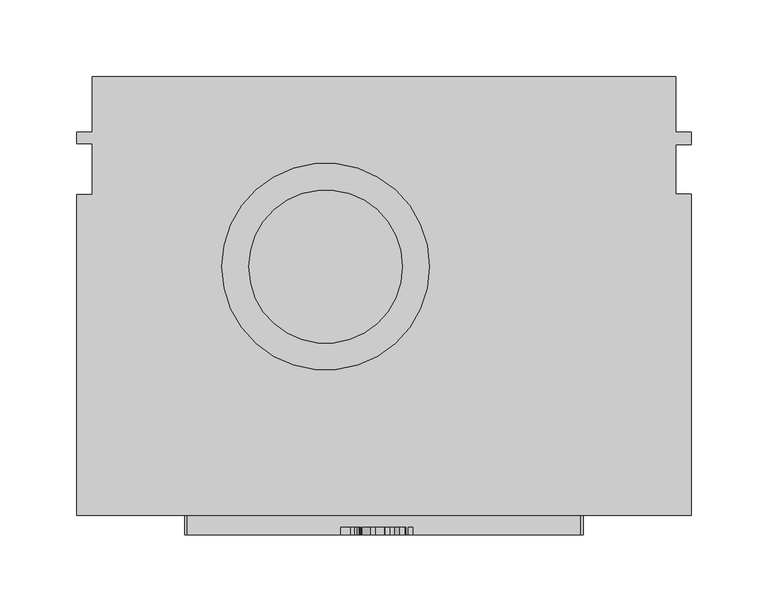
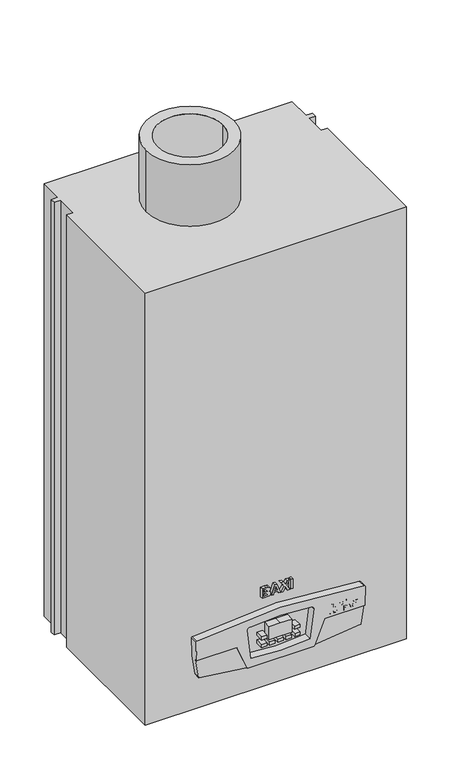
"""IFC4 building model written with IfcOpenShell, lengths in millimetres: proxy geometry, BAXI_ГазовыйКотел_Duo_tec_Compact_1.24 : BAXI_Газовый котел_Duo-tec_Compact_1.24_GA."""

from ifc_helpers import new_model, si_unit, point, frame, frame_2d, origin, origin_with_axes, place, context, project, spatial, polyline, circle_curve, trimmed, segment, composite_curve, outline, extrude, faceted_brep, source, transform, mapped, element, save
from ifc_brep_helpers import plane_surface, cylinder_surface, revolved_surface, advanced_brep


def mechanical_equipment_8a4b9af9(model_context):
    return source(origin(), model_context, "Body", "SolidModel", [
        extrude(outline(composite_curve([segment(trimmed(circle_curve(frame_2d((-65.0, -105.0)), 7.5), [point((-72.5, -105.0))], [point((-57.5, -105.0))], False, "CARTESIAN"), True, "CONTINUOUS"), segment(trimmed(circle_curve(frame_2d((-65.0, -105.0)), 7.5), [point((-57.5, -105.0))], [point((-72.5, -105.0))], False, "CARTESIAN"), True, "CONTINUOUS")], self_intersect=False)), origin_with_axes(), (0.0, 0.0, 1.0), 22.0),
        extrude(outline(polyline([(190.0, -0.5), (190.0, -36.6752899), (200.0, -36.6752899), (200.0, -44.656828), (190.0, -44.656828), (190.0, -76.999666), (200.0, -76.999666), (200.0, -286.1681724), (-200.0, -286.1681724), (-200.0, -77.3721844), (-190.0, -77.3721844), (-190.0, -44.0), (-200.0, -44.0), (-200.0, -36.6752899), (-190.0, -36.6752899), (-190.0, -0.5), (190.0, -0.5)])), origin_with_axes(), (0.0, 0.0, 1.0), 700.0),
        extrude(outline(composite_curve([segment(trimmed(circle_curve(frame_2d((-38.0, -124.25)), 67.5), [point((-105.5, -124.25))], [point((29.5, -124.25))], False, "CARTESIAN"), True, "CONTINUOUS"), segment(trimmed(circle_curve(frame_2d((-38.0, -124.25)), 67.5), [point((29.5, -124.25))], [point((-105.5, -124.25))], False, "CARTESIAN"), True, "CONTINUOUS")], self_intersect=False), holes=[composite_curve([segment(trimmed(circle_curve(frame_2d((-38.0, -124.25)), 50.0), [point((-88.0, -124.25))], [point((12.0, -124.25))], True, "CARTESIAN"), True, "CONTINUOUS"), segment(trimmed(circle_curve(frame_2d((-38.0, -124.25)), 50.0), [point((12.0, -124.25))], [point((-88.0, -124.25))], True, "CARTESIAN"), True, "CONTINUOUS")], self_intersect=False)]), frame((0.0, 0.0, 700.0), z_axis=(0.0, 0.0, 1.0), x_axis=(1.0, 0.0, 0.0)), (0.0, 0.0, 1.0), 100.0),
        extrude(outline(composite_curve([segment(trimmed(circle_curve(frame_2d((-130.0, -105.0)), 10.0), [point((-140.0, -105.0))], [point((-120.0, -105.0))], False, "CARTESIAN"), True, "CONTINUOUS"), segment(trimmed(circle_curve(frame_2d((-130.0, -105.0)), 10.0), [point((-120.0, -105.0))], [point((-140.0, -105.0))], False, "CARTESIAN"), True, "CONTINUOUS")], self_intersect=False)), origin_with_axes(), (0.0, 0.0, 1.0), 22.0),
        extrude(outline(composite_curve([segment(trimmed(circle_curve(frame_2d((0.0, -162.0)), 10.0), [point((-10.0, -162.0))], [point((10.0, -162.0))], False, "CARTESIAN"), True, "CONTINUOUS"), segment(trimmed(circle_curve(frame_2d((0.0, -162.0)), 10.0), [point((10.0, -162.0))], [point((-10.0, -162.0))], False, "CARTESIAN"), True, "CONTINUOUS")], self_intersect=False)), origin_with_axes(), (0.0, 0.0, 1.0), 22.0),
        extrude(outline(composite_curve([segment(trimmed(circle_curve(frame_2d((65.0, -105.0)), 7.5), [point((57.5, -105.0))], [point((72.5, -105.0))], False, "CARTESIAN"), True, "CONTINUOUS"), segment(trimmed(circle_curve(frame_2d((65.0, -105.0)), 7.5), [point((72.5, -105.0))], [point((57.5, -105.0))], False, "CARTESIAN"), True, "CONTINUOUS")], self_intersect=False)), origin_with_axes(), (0.0, 0.0, 1.0), 22.0),
        extrude(outline(composite_curve([segment(trimmed(circle_curve(frame_2d((130.0, -105.0)), 10.0), [point((120.0, -105.0))], [point((140.0, -105.0))], False, "CARTESIAN"), True, "CONTINUOUS"), segment(trimmed(circle_curve(frame_2d((130.0, -105.0)), 10.0), [point((140.0, -105.0))], [point((120.0, -105.0))], False, "CARTESIAN"), True, "CONTINUOUS")], self_intersect=False)), origin_with_axes(), (0.0, 0.0, 1.0), 22.0),
        extrude(outline(composite_curve([segment(trimmed(circle_curve(frame_2d((-160.0, -74.7759442)), 10.5), [point((-170.5, -74.7759442))], [point((-149.5, -74.7759442))], False, "CARTESIAN"), True, "CONTINUOUS"), segment(trimmed(circle_curve(frame_2d((-160.0, -74.7759442)), 10.5), [point((-149.5, -74.7759442))], [point((-170.5, -74.7759442))], False, "CARTESIAN"), True, "CONTINUOUS")], self_intersect=False)), origin_with_axes(), (0.0, 0.0, 1.0), 22.0),
        advanced_brep(
        [(-128.1028502, -299.0, 118.9007879), (-129.6477737, -299.0, 117.9319304), (-128.8084094, -299.0, 87.6513571), (-68.5287013, -299.0, 87.6513571), (-66.8402087, -299.0, 86.7610551), (-51.3248688, -299.0, 49.248306), (-50.8513874, -299.0, 48.0756191), (51.1143045, -299.0, 48.0940337), (51.4911202, -299.0, 49.135039), (66.909802, -299.0, 86.6492986), (68.4946002, -299.0, 87.4596466), (128.7917959, -299.0, 87.4596466), (129.6482494, -299.0, 117.9315691), (128.1028471, -299.0, 118.900748), (45.1546201, -299.0, 62.6878272), (-45.1447575, -299.0, 62.6864766), (-50.8321027, -299.0, 109.006186), (-46.1105772, -299.0, 112.9848533), (46.8170771, -299.0, 112.8908542), (50.8230971, -299.0, 108.853868), (-128.1028502, -286.5590296, 118.9007879), (128.1028471, -286.5590296, 118.900748), (129.6482494, -286.5590296, 117.9315691), (124.2366381, -286.5590296, 57.371656), (123.6920546, -286.5590296, 56.8270726), (-123.6926113, -286.5590296, 56.8269918), (-124.2369655, -286.5590296, 57.3753448), (-129.6477737, -286.5590296, 117.9319304), (45.1546201, -286.5590296, 62.6878272), (50.8230971, -286.5590296, 108.853868), (46.8170771, -286.5590296, 112.8908542), (-46.1105772, -286.5590296, 112.9848533), (-50.8321027, -286.5590296, 109.006186), (-45.1447575, -286.5590296, 62.6864766), (-123.6926113, -296.8843387, 56.8269918), (-124.2369655, -296.8843387, 57.3753448), (123.6920546, -296.8843387, 56.8270726), (51.1143045, -296.8843387, 48.0940337), (-50.8513874, -296.8843387, 48.0756191), (124.2366381, -296.8843387, 57.371656), (-128.8084094, -296.8843387, 87.6513571), (128.7917959, -296.8843387, 87.4596466), (-51.3248688, -296.8843387, 49.248306), (-66.8402087, -296.8843387, 86.7610551), (-68.5287013, -296.8843387, 87.6513571), (68.4946002, -296.8843387, 87.4596466), (66.909802, -296.8843387, 86.6492986), (51.4911202, -296.8843387, 49.135039)],
        [
            (0, 1, circle_curve(frame((-128.1028502, -299.0, 117.1846051), z_axis=(0.0, -1.0, 0.0), x_axis=(0.0, 0.0, 1.0)), 1.7161828)),
            (1, 2, circle_curve(frame((119.706062, -299.0, 109.6919897), z_axis=(0.0, -1.0, 0.0), x_axis=(0.0, 0.0, 1.0)), 249.4899437)),
            (2, 3),
            (3, 4, circle_curve(frame((-68.5287013, -299.0, 85.60506), z_axis=(0.0, 1.0, 0.0), x_axis=(1.0, 0.0, 0.0)), 2.0462971)),
            (4, 5),
            (5, 6, circle_curve(frame((-46.0275788, -299.0, 50.7051986), z_axis=(0.0, -1.0, 0.0), x_axis=(1.0, 0.0, 0.0)), 5.4939801)),
            (6, 7, circle_curve(frame((-0.0005141, -299.0, 778.8472695), z_axis=(0.0, -1.0, 0.0), x_axis=(0.0, 0.0, 1.0)), 732.5387473)),
            (7, 8, circle_curve(frame((46.0280159, -299.0, 50.5238335), z_axis=(0.0, -1.0, 0.0), x_axis=(1.0, 0.0, 0.0)), 5.636866)),
            (8, 9),
            (9, 10, circle_curve(frame((68.4946002, -299.0, 85.504777), z_axis=(0.0, 1.0, 0.0), x_axis=(1.0, 0.0, 0.0)), 1.9548696)),
            (10, 11),
            (11, 12, circle_curve(frame((-119.7055983, -299.0, 109.6919897), z_axis=(0.0, -1.0, 0.0), x_axis=(0.0, 0.0, 1.0)), 249.4899437)),
            (12, 13, circle_curve(frame((128.1028471, -299.0, 117.1840496), z_axis=(0.0, -1.0, 0.0), x_axis=(0.0, 0.0, 1.0)), 1.7166984)),
            (13, 0, circle_curve(frame((-0.0001294, -299.0, -702.5991104), z_axis=(0.0, -1.0, 0.0), x_axis=(0.0, 0.0, 1.0)), 831.4279223)),
            (14, 15, circle_curve(frame((0.0002319, -299.0, 376.8900603), z_axis=(0.0, 1.0, 0.0), x_axis=(0.0, 0.0, 1.0)), 317.4302476)),
            (15, 16),
            (16, 17, circle_curve(frame((-46.7949968, -299.0, 109.006186), z_axis=(0.0, 1.0, 0.0), x_axis=(0.0, 0.0, 1.0)), 4.0371059)),
            (17, 18, circle_curve(frame((0.0002319, -299.0, -236.0561817), z_axis=(0.0, 1.0, 0.0), x_axis=(0.0, 0.0, 1.0)), 352.0736441)),
            (18, 19, circle_curve(frame((46.7859912, -299.0, 108.853868), z_axis=(0.0, 1.0, 0.0), x_axis=(0.0, 0.0, 1.0)), 4.0371059)),
            (19, 14),
            (20, 21, circle_curve(frame((-0.0001294, -286.5590296, -702.5991104), z_axis=(0.0, 1.0, 0.0), x_axis=(0.0, 0.0, 1.0)), 831.4279223)),
            (21, 22, circle_curve(frame((128.1028471, -286.5590296, 117.1840496), z_axis=(0.0, 1.0, 0.0), x_axis=(0.0, 0.0, 1.0)), 1.7166984)),
            (22, 23, circle_curve(frame((-119.7055983, -286.5590296, 109.6919897), z_axis=(0.0, 1.0, 0.0), x_axis=(0.0, 0.0, 1.0)), 249.4899437)),
            (23, 24, circle_curve(frame((123.6920546, -286.5590296, 57.371656), z_axis=(0.0, 1.0, 0.0), x_axis=(0.0, 0.0, 1.0)), 0.5445835)),
            (24, 25, circle_curve(frame((-0.0005141, -286.5590296, 778.8472695), z_axis=(0.0, 1.0, 0.0), x_axis=(0.0, 0.0, 1.0)), 732.5387473)),
            (25, 26, circle_curve(frame((-123.6926113, -286.5590296, 57.3713605), z_axis=(0.0, 1.0, 0.0), x_axis=(0.0, 0.0, 1.0)), 0.5443687)),
            (26, 27, circle_curve(frame((119.706062, -286.5590296, 109.6919897), z_axis=(0.0, 1.0, 0.0), x_axis=(0.0, 0.0, 1.0)), 249.4899437)),
            (27, 20, circle_curve(frame((-128.1028502, -286.5590296, 117.1846051), z_axis=(0.0, 1.0, 0.0), x_axis=(0.0, 0.0, 1.0)), 1.7161828)),
            (28, 29),
            (29, 30, circle_curve(frame((46.7859912, -286.5590296, 108.853868), z_axis=(0.0, -1.0, 0.0), x_axis=(0.0, 0.0, 1.0)), 4.0371059)),
            (30, 31, circle_curve(frame((0.0002319, -286.5590296, -236.0561817), z_axis=(0.0, -1.0, 0.0), x_axis=(0.0, 0.0, 1.0)), 352.0736441)),
            (31, 32, circle_curve(frame((-46.7949968, -286.5590296, 109.006186), z_axis=(0.0, -1.0, 0.0), x_axis=(0.0, 0.0, 1.0)), 4.0371059)),
            (32, 33),
            (33, 28, circle_curve(frame((0.0002319, -286.5590296, 376.8900603), z_axis=(0.0, -1.0, 0.0), x_axis=(0.0, 0.0, 1.0)), 317.4302476)),
            (25, 34),
            (34, 35, circle_curve(frame((-123.6926113, -296.8843387, 57.3713605), z_axis=(0.0, 1.0, 0.0), x_axis=(0.0, 0.0, 1.0)), 0.5443687)),
            (35, 26),
            (24, 36),
            (36, 37, circle_curve(frame((-0.0005141, -296.8843387, 778.8472695), z_axis=(0.0, 1.0, 0.0), x_axis=(0.0, 0.0, 1.0)), 732.5387473)),
            (37, 7),
            (6, 38),
            (38, 34, circle_curve(frame((-0.0005141, -296.8843387, 778.8472695), z_axis=(0.0, 1.0, 0.0), x_axis=(0.0, 0.0, 1.0)), 732.5387473)),
            (23, 39),
            (39, 36, circle_curve(frame((123.6920546, -296.8843387, 57.371656), z_axis=(0.0, 1.0, 0.0), x_axis=(0.0, 0.0, 1.0)), 0.5445835)),
            (12, 22),
            (21, 13),
            (20, 0),
            (27, 1),
            (18, 30),
            (29, 19),
            (28, 14),
            (15, 33),
            (32, 16),
            (31, 17),
            (35, 40, circle_curve(frame((119.706062, -296.8843387, 109.6919897), z_axis=(0.0, 1.0, 0.0), x_axis=(0.0, 0.0, 1.0)), 249.4899437)),
            (40, 2),
            (11, 41),
            (41, 39, circle_curve(frame((-119.7055983, -296.8843387, 109.6919897), z_axis=(0.0, 1.0, 0.0), x_axis=(0.0, 0.0, 1.0)), 249.4899437)),
            (42, 43),
            (43, 44, circle_curve(frame((-68.5287013, -296.8843387, 85.60506), z_axis=(0.0, -1.0, 0.0), x_axis=(1.0, 0.0, 0.0)), 2.0462971)),
            (44, 40),
            (38, 42, circle_curve(frame((-46.0275788, -296.8843387, 50.7051986), z_axis=(0.0, 1.0, 0.0), x_axis=(1.0, 0.0, 0.0)), 5.4939801)),
            (45, 46, circle_curve(frame((68.4946002, -296.8843387, 85.504777), z_axis=(0.0, -1.0, 0.0), x_axis=(1.0, 0.0, 0.0)), 1.9548696)),
            (46, 47),
            (47, 37, circle_curve(frame((46.0280159, -296.8843387, 50.5238335), z_axis=(0.0, 1.0, 0.0), x_axis=(1.0, 0.0, 0.0)), 5.636866)),
            (41, 45),
            (44, 3),
            (42, 5),
            (4, 43),
            (45, 10),
            (9, 46),
            (8, 47),
        ],
        [
            plane_surface(frame((-128.1028502, -299.0, 118.9007879), z_axis=(0.0, -1.0, 0.0), x_axis=(-1.0, 0.0, 0.0))),
            plane_surface(frame((-128.1028502, -286.5590296, 118.9007879), z_axis=(0.0, 1.0, 0.0), x_axis=(1.0, 0.0, 0.0))),
            cylinder_surface(frame((-123.6926113, -286.5590296, 57.3713605), z_axis=(0.0, -1.0, 0.0), x_axis=(0.0, 0.0, 1.0)), 0.5443687),
            cylinder_surface(frame((-0.0005141, -286.5590296, 778.8472695), z_axis=(0.0, -1.0, 0.0), x_axis=(0.0, 0.0, 1.0)), 732.5387473),
            cylinder_surface(frame((123.6920546, -286.5590296, 57.371656), z_axis=(0.0, -1.0, 0.0), x_axis=(0.0, 0.0, 1.0)), 0.5445835),
            cylinder_surface(frame((128.1028471, -286.5590296, 117.1840496), z_axis=(0.0, -1.0, 0.0), x_axis=(0.0, 0.0, 1.0)), 1.7166984),
            cylinder_surface(frame((-0.0001294, -286.5590296, -702.5991104), z_axis=(0.0, -1.0, 0.0), x_axis=(0.0, 0.0, 1.0)), 831.4279223),
            cylinder_surface(frame((-128.1028502, -286.5590296, 117.1846051), z_axis=(0.0, -1.0, 0.0), x_axis=(0.0, 0.0, 1.0)), 1.7161828),
            revolved_surface(polyline([(46.7859912, -286.5590296, 112.8909739), (46.7859912, -299.0, 112.8909739)]), (46.7859912, -299.0, 108.853868), (0.0, 1.0, 0.0)),
            plane_surface(frame((50.8230971, -299.0, 108.853868), z_axis=(-0.992546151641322, 0.0, 0.12186934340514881), x_axis=(0.0, 1.0, 0.0))),
            plane_surface(frame((-45.1447575, -299.0, 62.6864766), z_axis=(0.9925461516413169, 0.0, 0.12186934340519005), x_axis=(0.0, 1.0, 0.0))),
            revolved_surface(polyline([(-46.7949968, -286.5590296, 113.0432919), (-46.7949968, -299.0, 113.0432919)]), (-46.7949968, -299.0, 109.006186), (0.0, 1.0, 0.0)),
            cylinder_surface(frame((119.706062, -286.5590296, 109.6919897), z_axis=(0.0, -1.0, 0.0), x_axis=(0.0, 0.0, 1.0)), 249.4899437),
            cylinder_surface(frame((-119.7055983, -286.5590296, 109.6919897), z_axis=(0.0, -1.0, 0.0), x_axis=(0.0, 0.0, 1.0)), 249.4899437),
            revolved_surface(polyline([(0.0002319, -286.5590296, 694.3203079), (0.0002319, -299.0, 694.3203079)]), (0.0002319, -299.0, 376.8900603), (0.0, 1.0, 0.0)),
            revolved_surface(polyline([(0.0002319, -286.5590296, 116.01746240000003), (0.0002319, -299.0, 116.01746240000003)]), (0.0002319, -299.0, -236.0561817), (0.0, 1.0, 0.0)),
            plane_surface(frame((-126.9425163, -296.8843387, 87.6513571), z_axis=(0.0, -1.0, 0.0), x_axis=(1.0, 0.0, 0.0))),
            plane_surface(frame((-68.5287013, -299.0, 87.6513571), z_axis=(0.0, 0.0, -1.0), x_axis=(0.0, 1.0, 0.0))),
            plane_surface(frame((-51.3248688, -299.0, 49.248306), z_axis=(-0.9240792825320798, 0.0, -0.3822008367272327), x_axis=(0.0, 1.0, 0.0))),
            cylinder_surface(frame((-46.0275788, -296.8843387, 50.7051986), z_axis=(0.0, 1.0, 0.0), x_axis=(1.0, 0.0, 0.0)), 5.4939801),
            revolved_surface(polyline([(-66.48240419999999, -299.0, 85.60506), (-66.48240419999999, -296.8843387, 85.60506)]), (-68.5287013, -296.8843387, 85.60506), (0.0, -1.0, 0.0)),
            revolved_surface(polyline([(70.44946979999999, -299.0, 85.504777), (70.44946979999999, -296.8843387, 85.504777)]), (68.4946002, 0.0, 85.504777), (0.0, -1.0, 0.0)),
            plane_surface(frame((66.909802, -299.0, 86.6492986), z_axis=(0.9249241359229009, 0.0, -0.38015173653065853), x_axis=(0.0, 1.0, 0.0))),
            cylinder_surface(frame((46.0280159, 0.0, 50.5238335), z_axis=(0.0, 1.0, 0.0), x_axis=(1.0, 0.0, 0.0)), 5.636866),
            plane_surface(frame((131.0084756, -299.0, 87.4596466), z_axis=(0.0, 0.0, -1.0), x_axis=(0.0, 1.0, 0.0))),
        ],
        [
            (0, [[1, 2, 3, 4, 5, 6, 7, 8, 9, 10, 11, 12, 13, 14], [15, 16, 17, 18, 19, 20]]),
            (1, [[21, 22, 23, 24, 25, 26, 27, 28], [29, 30, 31, 32, 33, 34]]),
            (2, [[-26, 35, 36, 37]]),
            (3, [[-25, 38, 39, 40, -7, 41, 42, -35]]),
            (4, [[-24, 43, 44, -38]]),
            (5, [[-13, 45, -22, 46]]),
            (6, [[-14, -46, -21, 47]]),
            (7, [[-1, -47, -28, 48]]),
            (8, [[-19, 49, -30, 50]]),
            (9, [[-20, -50, -29, 51]]),
            (10, [[-16, 52, -33, 53]]),
            (11, [[-17, -53, -32, 54]]),
            (12, [[-27, -37, 55, 56, -2, -48]]),
            (13, [[-23, -45, -12, 57, 58, -43]]),
            (14, [[-15, -51, -34, -52]]),
            (15, [[-18, -54, -31, -49]]),
            (16, [[59, 60, 61, -55, -36, -42, 62]]),
            (16, [[63, 64, 65, -39, -44, -58, 66]]),
            (17, [[67, -3, -56, -61]]),
            (18, [[-59, 68, -5, 69]]),
            (19, [[-68, -62, -41, -6]]),
            (20, [[-60, -69, -4, -67]]),
            (21, [[-63, 70, -10, 71]]),
            (22, [[-64, -71, -9, 72]]),
            (23, [[-72, -8, -40, -65]]),
            (24, [[-70, -66, -57, -11]]),
        ],
    ),
        faceted_brep([(-17.4752534, -299.0, 103.9790113), (-17.4752534, -299.0, 82.7716567), (0.0002319, -299.0, 82.7716567), (17.4757171, -299.0, 82.7716567), (17.4757171, -299.0, 103.9790113), (0.0002319, -299.0, 103.9790113), (-17.4752534, -286.5590296, 103.9790113), (0.0002319, -286.5590296, 103.9790113), (17.4757171, -286.5590296, 103.9790113), (17.4757171, -286.5590296, 82.7716567), (0.0002319, -286.5590296, 82.7716567), (-17.4752534, -286.5590296, 82.7716567)], [[[0, 1, 2, 3, 4, 5]], [[6, 7, 8, 9, 10, 11]], [[1, 0, 6, 11]], [[2, 1, 11, 10]], [[3, 2, 10, 9]], [[4, 3, 9, 8]], [[5, 4, 8, 7]], [[0, 5, 7, 6]]]),
        faceted_brep([(-20.9127534, -299.0, 91.3187813), (-29.2837635, -299.0, 91.3187813), (-29.2837635, -299.0, 86.3187813), (-20.9127534, -299.0, 86.3187813), (-20.9127534, -286.5590296, 91.3187813), (-20.9127534, -286.5590296, 86.3187813), (-29.2837635, -286.5590296, 86.3187813), (-29.2837635, -286.5590296, 91.3187813)], [[[0, 1, 2, 3]], [[4, 5, 6, 7]], [[1, 0, 4, 7]], [[2, 1, 7, 6]], [[3, 2, 6, 5]], [[0, 3, 5, 4]]]),
        faceted_brep([(-8.4792432, -299.0, 78.8839851), (-16.8502534, -299.0, 78.8839851), (-16.8502534, -299.0, 73.8839851), (-8.4792432, -299.0, 73.8839851), (-8.4792432, -286.5590296, 78.8839851), (-8.4792432, -286.5590296, 73.8839851), (-16.8502534, -286.5590296, 73.8839851), (-16.8502534, -286.5590296, 78.8839851)], [[[0, 1, 2, 3]], [[4, 5, 6, 7]], [[1, 0, 4, 7]], [[2, 1, 7, 6]], [[3, 2, 6, 5]], [[0, 3, 5, 4]]]),
        faceted_brep([(4.1857369, -299.0, 78.8839851), (-4.1852732, -299.0, 78.8839851), (-4.1852732, -299.0, 73.8839851), (4.1857369, -299.0, 73.8839851), (4.1857369, -286.5590296, 78.8839851), (4.1857369, -286.5590296, 73.8839851), (-4.1852732, -286.5590296, 73.8839851), (-4.1852732, -286.5590296, 78.8839851)], [[[0, 1, 2, 3]], [[4, 5, 6, 7]], [[1, 0, 4, 7]], [[2, 1, 7, 6]], [[3, 2, 6, 5]], [[0, 3, 5, 4]]]),
        faceted_brep([(20.9132171, -299.0, 91.3187813), (20.9132171, -299.0, 86.3187813), (29.2842273, -299.0, 86.3187813), (29.2842273, -299.0, 91.3187813), (20.9132171, -286.5590296, 91.3187813), (29.2842273, -286.5590296, 91.3187813), (29.2842273, -286.5590296, 86.3187813), (20.9132171, -286.5590296, 86.3187813)], [[[0, 1, 2, 3]], [[4, 5, 6, 7]], [[1, 0, 4, 7]], [[2, 1, 7, 6]], [[3, 2, 6, 5]], [[0, 3, 5, 4]]]),
        faceted_brep([(8.479707, -299.0, 78.8839851), (8.479707, -299.0, 73.8839851), (16.8507171, -299.0, 73.8839851), (16.8507171, -299.0, 78.8839851), (8.479707, -286.5590296, 78.8839851), (16.8507171, -286.5590296, 78.8839851), (16.8507171, -286.5590296, 73.8839851), (8.479707, -286.5590296, 73.8839851)], [[[0, 1, 2, 3]], [[4, 5, 6, 7]], [[1, 0, 4, 7]], [[2, 1, 7, 6]], [[3, 2, 6, 5]], [[0, 3, 5, 4]]]),
        faceted_brep([(21.604707, -299.0, 78.8839851), (21.604707, -299.0, 73.8839851), (29.9757171, -299.0, 73.8839851), (29.9757171, -299.0, 78.8839851), (21.604707, -286.5590296, 78.8839851), (29.9757171, -286.5590296, 78.8839851), (29.9757171, -286.5590296, 73.8839851), (21.604707, -286.5590296, 73.8839851)], [[[0, 1, 2, 3]], [[4, 5, 6, 7]], [[1, 0, 4, 7]], [[2, 1, 7, 6]], [[3, 2, 6, 5]], [[0, 3, 5, 4]]]),
        faceted_brep([(-29.2837635, -299.0, 78.8839851), (-29.2837635, -299.0, 73.8839851), (-20.9127534, -299.0, 73.8839851), (-20.9127534, -299.0, 78.8839851), (-29.2837635, -286.5590296, 78.8839851), (-20.9127534, -286.5590296, 78.8839851), (-20.9127534, -286.5590296, 73.8839851), (-29.2837635, -286.5590296, 73.8839851)], [[[0, 1, 2, 3]], [[4, 5, 6, 7]], [[1, 0, 4, 7]], [[2, 1, 7, 6]], [[3, 2, 6, 5]], [[0, 3, 5, 4]]]),
        extrude(outline(polyline([(106.7296304, 76.1852895), (99.5878146, 76.1852895), (99.5878146, 78.9077525), (99.7383737, 80.1883906), (100.3087271, 81.2051074), (101.569881, 81.9738445), (103.0896424, 82.1934837), (104.7785614, 81.9587886), (105.9352097, 81.2741875), (106.5932416, 80.1937045), (106.7296304, 78.829816), (106.7296304, 76.1852895)]), holes=[polyline([(105.4826467, 77.8945782), (105.4153379, 79.5170741), (105.0858792, 80.2353296), (104.4057062, 80.6754936), (103.1569512, 80.8331379), (101.8709993, 80.6754936), (100.9021071, 79.6428352), (100.8347983, 78.7040549), (100.8347983, 77.5456353), (105.4826467, 77.8945782)])]), frame((0.0, -299.0, 0.0), z_axis=(0.0, 1.0, 0.0), x_axis=(0.0, 0.0, 1.0)), (0.0, 0.0, 1.0), 5.0),
        extrude(outline(polyline([(106.7296304, 83.3271053), (102.9249131, 83.3271053), (101.1146611, 83.4705793), (100.3228973, 83.8815171), (99.7100332, 84.729962), (99.4744525, 86.3046331), (99.6905491, 87.699519), (100.2724158, 88.5523921), (101.1677997, 88.9898992), (102.9833654, 89.1085752), (106.7296304, 89.1085752), (106.7296304, 87.7482293), (102.7938381, 87.7482293), (100.9711872, 87.2708684), (100.7214362, 86.2621223), (100.9862431, 85.2259214), (101.6867858, 84.7459035), (102.8770884, 84.6874511), (106.7296304, 84.6874511), (106.7296304, 83.3271053)])), frame((0.0, -299.0, 0.0), z_axis=(0.0, 1.0, 0.0), x_axis=(0.0, 0.0, 1.0)), (0.0, 0.0, 1.0), 5.0),
        extrude(outline(polyline([(103.1144404, 90.2421968), (100.4442303, 91.1650356), (99.4744525, 93.6519179), (100.4486585, 96.1210873), (103.1498661, 97.0439261), (105.8661296, 96.1140022), (106.8429926, 93.634205), (106.5613585, 92.1215288), (105.9192681, 91.2155172), (104.9424052, 90.5627991), (103.1144404, 90.2421968)]), holes=[polyline([(103.1640364, 91.6025426), (104.9902298, 92.1658108), (105.5960089, 93.6501466), (104.997315, 95.1273972), (103.1835205, 95.6835802), (101.3369572, 95.1123412), (100.7214362, 93.6501466), (101.3413855, 92.1808668), (103.1640364, 91.6025426)])]), frame((0.0, -299.0, 0.0), z_axis=(0.0, 1.0, 0.0), x_axis=(0.0, 0.0, 1.0)), (0.0, 0.0, 1.0), 5.0),
        extrude(outline(polyline([(99.5878146, 102.4853096), (99.5878146, 103.8456554), (105.4826467, 103.8456554), (105.4826467, 105.8861742), (106.7296304, 105.8861742), (106.7296304, 100.4447908), (105.4826467, 100.4447908), (105.4826467, 102.4853096), (99.5878146, 102.4853096)])), frame((0.0, -299.0, 0.0), z_axis=(0.0, 1.0, 0.0), x_axis=(0.0, 0.0, 1.0)), (0.0, 0.0, 1.0), 5.0),
        extrude(outline(polyline([(99.5878146, 106.7930715), (99.5878146, 112.2344549), (100.8347983, 112.2344549), (100.8347983, 108.1534173), (102.6485928, 108.1534173), (102.6485928, 111.8943685), (103.8955765, 111.8943685), (103.8955765, 108.1534173), (105.4826467, 108.1534173), (105.4826467, 112.1210928), (106.7296304, 112.1210928), (106.7296304, 106.7930715), (99.5878146, 106.7930715)])), frame((0.0, -299.0, 0.0), z_axis=(0.0, 1.0, 0.0), x_axis=(0.0, 0.0, 1.0)), (0.0, 0.0, 1.0), 5.0),
        extrude(outline(polyline([(102.3085063, 118.0159249), (101.1899407, 117.3897761), (100.8347983, 116.3491469), (101.3909814, 115.0144847), (103.2579144, 114.5016981), (105.044254, 115.0304262), (105.5960089, 116.4075993), (105.2922337, 117.451771), (104.4623873, 118.0159249), (104.6891116, 119.3762707), (106.0441436, 118.641188), (106.8429926, 116.5014773), (105.8741004, 114.0668479), (103.1534087, 113.1413522), (100.5425365, 114.0588771), (99.5878146, 116.4022854), (100.1466546, 118.3046441), (101.8550577, 119.3762707), (102.3085063, 118.0159249)])), frame((0.0, -299.0, 0.0), z_axis=(0.0, 1.0, 0.0), x_axis=(0.0, 0.0, 1.0)), (0.0, 0.0, 1.0), 5.0),
        extrude(outline(polyline([(93.4947119, 78.2824894), (92.3761462, 77.6563406), (92.0210038, 76.6157114), (92.5771869, 75.2810492), (94.4441199, 74.7682625), (96.2304595, 75.2969907), (96.7822144, 76.6741638), (96.4784392, 77.7183355), (95.6485928, 78.2824894), (95.8753171, 79.6428352), (97.2303491, 78.9077525), (98.0291981, 76.7680418), (97.0603059, 74.3334124), (94.3396142, 73.4079167), (91.728742, 74.3254416), (90.7740201, 76.6688499), (91.3328601, 78.5712086), (93.0412632, 79.6428352), (93.4947119, 78.2824894)])), frame((0.0, -299.0, 0.0), z_axis=(0.0, 1.0, 0.0), x_axis=(0.0, 0.0, 1.0)), (0.0, 0.0, 1.0), 5.0),
        extrude(outline(polyline([(94.3006459, 80.5497325), (91.6304358, 81.4725713), (90.660658, 83.9594536), (91.634864, 86.428623), (94.3360716, 87.3514618), (97.0523351, 86.4215379), (98.0291981, 83.9417407), (97.747564, 82.4290645), (97.1054736, 81.5230529), (96.1286107, 80.8703348), (94.3006459, 80.5497325)]), holes=[polyline([(94.3502419, 81.9100783), (96.1764353, 82.4733465), (96.7822144, 83.9576823), (96.1835205, 85.4349329), (94.369726, 85.9911159), (92.5231628, 85.4198769), (91.9076417, 83.9576823), (92.527591, 82.4884025), (94.3502419, 81.9100783)])]), frame((0.0, -299.0, 0.0), z_axis=(0.0, 1.0, 0.0), x_axis=(0.0, 0.0, 1.0)), (0.0, 0.0, 1.0), 5.0),
        extrude(outline(polyline([(90.7740201, 88.4850834), (90.7740201, 89.8454292), (96.3960745, 89.9021103), (90.7740201, 91.1473227), (90.7740201, 92.7397068), (96.3960745, 93.9831479), (90.7740201, 94.039829), (90.7740201, 95.4001748), (97.9158359, 95.4001748), (97.9158359, 93.0691655), (93.0448058, 91.9426291), (97.9158359, 90.8160927), (97.9158359, 88.4850834), (90.7740201, 88.4850834)])), frame((0.0, -299.0, 0.0), z_axis=(0.0, 1.0, 0.0), x_axis=(0.0, 0.0, 1.0)), (0.0, 0.0, 1.0), 5.0),
        extrude(outline(polyline([(90.7740201, 96.7605207), (90.7740201, 98.1208666), (93.4947119, 98.1208666), (93.4947119, 99.0738172), (93.595675, 100.5882647), (93.9331046, 101.3454885), (94.6327616, 101.960124), (95.7318431, 102.2019042), (97.1143301, 101.7900807), (97.8095589, 100.7671644), (97.9158359, 99.0614182), (97.9158359, 96.7605207), (90.7740201, 96.7605207)]), holes=[polyline([(96.6688522, 98.4937218), (94.8479726, 100.1852977), (94.7416956, 98.9657689), (94.7416956, 98.1208666), (96.6688522, 98.4937218)])]), frame((0.0, -299.0, 0.0), z_axis=(0.0, 1.0, 0.0), x_axis=(0.0, 0.0, 1.0)), (0.0, 0.0, 1.0), 5.0),
        extrude(outline(polyline([(90.7740201, 109.34372), (97.9158359, 106.7115924), (97.9158359, 105.2626824), (90.7740201, 102.6553528), (90.7740201, 104.1042629), (92.3610903, 104.6569034), (92.3610903, 107.3545684), (90.7740201, 107.914294), (90.7740201, 109.34372)]), holes=[polyline([(93.608074, 106.9188326), (93.608074, 105.0926391), (96.2154036, 105.9995364), (93.608074, 106.9188326)])]), frame((0.0, -299.0, 0.0), z_axis=(0.0, 1.0, 0.0), x_axis=(0.0, 0.0, 1.0)), (0.0, 0.0, 1.0), 5.0),
        extrude(outline(polyline([(93.4947119, 114.6717413), (92.3761462, 114.0455925), (92.0210038, 113.0049633), (92.5771869, 111.6703011), (94.4441199, 111.1575145), (96.2304595, 111.6862426), (96.7822144, 113.0634157), (96.4784392, 114.1075874), (95.6485928, 114.6717413), (95.8753171, 116.0320872), (97.2303491, 115.2970044), (98.0291981, 113.1572937), (97.0603059, 110.7226643), (94.3396142, 109.7971686), (91.728742, 110.7146935), (90.7740201, 113.0581019), (91.3328601, 114.9604605), (93.0412632, 116.0320872), (93.4947119, 114.6717413)])), frame((0.0, -299.0, 0.0), z_axis=(0.0, 1.0, 0.0), x_axis=(0.0, 0.0, 1.0)), (0.0, 0.0, 1.0), 5.0),
        extrude(outline(polyline([(90.7740201, 118.7527789), (90.7740201, 120.1131248), (96.6688522, 120.1131248), (96.6688522, 122.1536436), (97.9158359, 122.1536436), (97.9158359, 116.7122601), (96.6688522, 116.7122601), (96.6688522, 118.7527789), (90.7740201, 118.7527789)])), frame((0.0, -299.0, 0.0), z_axis=(0.0, 1.0, 0.0), x_axis=(0.0, 0.0, 1.0)), (0.0, 0.0, 1.0), 5.0),
        extrude(outline(polyline([(168.5884615, -28.0793113), (153.2845705, -28.0793113), (153.2845705, -22.8489637), (153.3870519, -19.1064943), (154.1101152, -17.0246033), (155.6777013, -15.692345), (157.6988625, -15.2046094), (159.9952052, -15.8840232), (161.3768065, -17.8273744), (162.7318385, -16.2654818), (164.7131459, -15.6904472), (166.5141618, -16.1724894), (167.8008729, -17.3775949), (168.4366372, -19.0172975), (168.5884615, -21.7975803), (168.5884615, -28.0793113)]), holes=[polyline([(165.9163536, -25.1642845), (165.9163536, -23.213342), (162.5648318, -20.4729131), (162.5154889, -22.9400582), (162.5154889, -25.1642845), (165.9163536, -25.1642845)]), polyline([(159.8433809, -25.1642845), (159.8433809, -22.4731985), (156.047773, -19.7972949), (155.9566785, -22.0822509), (155.9566785, -25.1642845), (159.8433809, -25.1642845)])]), frame((0.0, -299.0, 0.0), z_axis=(0.0, 1.0, 0.0), x_axis=(0.0, 0.0, 1.0)), (0.0, 0.0, 1.0), 5.0),
        extrude(outline(polyline([(153.2845705, 0.0992816), (168.5884615, -5.5409917), (168.5884615, -8.6457989), (153.2845705, -14.2329337), (153.2845705, -11.1281265), (156.6854352, -9.9438968), (156.6854352, -4.163186), (153.2845705, -2.9637739), (153.2845705, 0.0992816)]), holes=[polyline([(159.3575431, -5.0969056), (159.3575431, -9.0101773), (164.9446779, -7.0668261), (159.3575431, -5.0969056)])]), frame((0.0, -299.0, 0.0), z_axis=(0.0, 1.0, 0.0), x_axis=(0.0, 0.0, 1.0)), (0.0, 0.0, 1.0), 5.0),
        extrude(outline(polyline([(153.2845705, 0.2207411), (153.2845705, 3.629197), (158.6895161, 7.1439299), (153.2845705, 10.6586628), (153.2845705, 14.0671187), (161.3084856, 8.8481578), (168.5884615, 13.5812808), (168.5884615, 10.172825), (163.9312506, 7.1439299), (168.5884615, 4.1150348), (168.5884615, 0.7065789), (161.3084856, 5.4397019), (153.2845705, 0.2207411)])), frame((0.0, -299.0, 0.0), z_axis=(0.0, 1.0, 0.0), x_axis=(0.0, 0.0, 1.0)), (0.0, 0.0, 1.0), 5.0),
        extrude(outline(polyline([(15.6460915, -294.0), (18.5611184, -294.0), (18.5611184, -299.0), (15.6460915, -299.0), (15.6460915, -294.0)])), frame((0.0, 0.0, 153.2845705), z_axis=(0.0, 0.0, 1.0), x_axis=(1.0, 0.0, 0.0)), (0.0, 0.0, 1.0), 15.303891),
    ])


if __name__ == "__main__":
    model = new_model("IFC4")
    model_context = context("Model", 3, world=origin())
    ifc_project = project(units=[si_unit("LENGTHUNIT", "METRE", prefix="MILLI")], contexts=[model_context])
    site = spatial("IfcSite", under=ifc_project)
    building = spatial("IfcBuilding", under=site)
    placement = place(None, origin())
    mechanical_equipment_shape = mechanical_equipment_8a4b9af9(model_context)
    element("IfcBuildingElementProxy", 1, Name="BAXI_ГазовыйКотел_Duo_tec_Compact_1.24 : BAXI_Газовый котел_Duo-tec_Compact_1.24_GA", ObjectType="BAXI_ГазовыйКотел_Duo_tec_Compact_1.24 : BAXI_Газовый котел_Duo-tec_Compact_1.24_GA", at=placement, inside=building, context=model_context, shape_type="MappedRepresentation", body=[
        mapped(mechanical_equipment_shape, transform((0.0, 0.0, 0.0), x_axis=(1.0, 0.0, 0.0), y_axis=(0.0, 1.0, 0.0), z_axis=(0.0, 0.0, 1.0))),
    ])
    save(model, "model.ifc")
